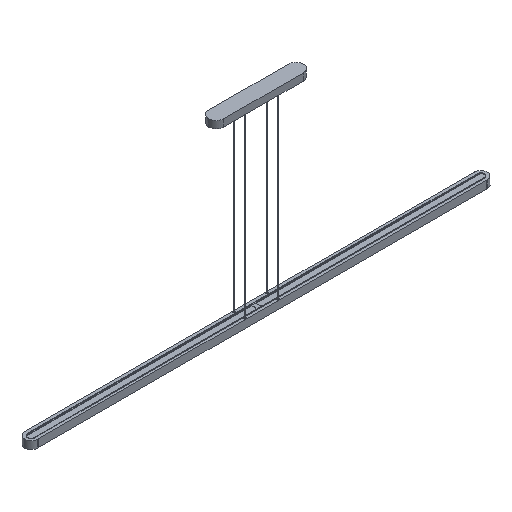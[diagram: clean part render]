
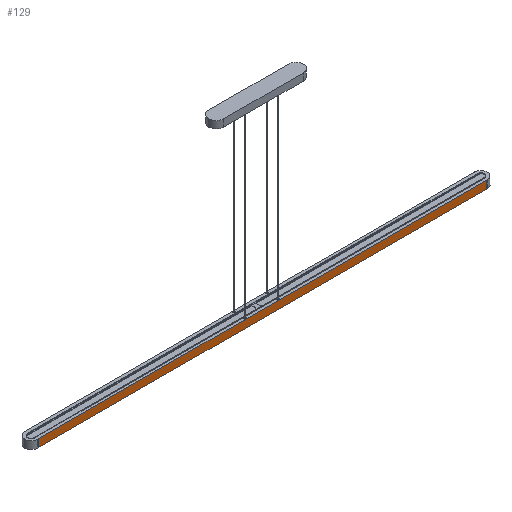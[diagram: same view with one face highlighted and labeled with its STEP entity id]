
A CAD part, isometric view. The second image highlights one B-rep face of the part: STEP entity #129.
In plain terms, the highlighted planar face has unit normal (0, -1, 0).
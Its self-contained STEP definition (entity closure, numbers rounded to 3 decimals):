
#129=ADVANCED_FACE($,(#259),#1665,.T.);
#259=FACE_OUTER_BOUND($,#403,.T.);
#403=EDGE_LOOP($,(#940,#941,#942,#943));
#940=ORIENTED_EDGE($,*,*,#1382,.F.);
#941=ORIENTED_EDGE($,*,*,#1329,.F.);
#942=ORIENTED_EDGE($,*,*,#1365,.T.);
#943=ORIENTED_EDGE($,*,*,#1345,.F.);
#1329=EDGE_CURVE($,#1582,#1583,#1871,.T.);
#1345=EDGE_CURVE($,#1596,#1597,#1887,.T.);
#1365=EDGE_CURVE($,#1582,#1597,#1907,.T.);
#1382=EDGE_CURVE($,#1583,#1596,#1921,.T.);
#1582=VERTEX_POINT($,#4300);
#1583=VERTEX_POINT($,#4301);
#1596=VERTEX_POINT($,#4314);
#1597=VERTEX_POINT($,#4315);
#1665=PLANE($,#2209);
#1871=B_SPLINE_CURVE_WITH_KNOTS($,1,(#4008,#4009),.UNSPECIFIED.,.F.,.F.,
(2,2),(-2317.,0.),.UNSPECIFIED.);
#1887=B_SPLINE_CURVE_WITH_KNOTS($,1,(#4080,#4081),.UNSPECIFIED.,.F.,.F.,
(2,2),(0.,2317.),.UNSPECIFIED.);
#1907=B_SPLINE_CURVE_WITH_KNOTS($,1,(#4160,#4161),.UNSPECIFIED.,.F.,.F.,
(2,2),(-40.,0.),.UNSPECIFIED.);
#1921=B_SPLINE_CURVE_WITH_KNOTS($,1,(#4194,#4195),.UNSPECIFIED.,.F.,.F.,
(2,2),(-40.,0.),.UNSPECIFIED.);
#2209=AXIS2_PLACEMENT_3D($,#4223,#2266,$);
#2266=DIRECTION($,(0.,-1.,0.));
#4008=CARTESIAN_POINT($,(1158.5,-34.,-1000.));
#4009=CARTESIAN_POINT($,(-1158.5,-34.,-1000.));
#4080=CARTESIAN_POINT($,(-1158.5,-34.,-960.));
#4081=CARTESIAN_POINT($,(1158.5,-34.,-960.));
#4160=CARTESIAN_POINT($,(1158.5,-34.,-1000.));
#4161=CARTESIAN_POINT($,(1158.5,-34.,-960.));
#4194=CARTESIAN_POINT($,(-1158.5,-34.,-1000.));
#4195=CARTESIAN_POINT($,(-1158.5,-34.,-960.));
#4223=CARTESIAN_POINT($,(1158.5,-34.,-1000.));
#4300=CARTESIAN_POINT($,(1158.5,-34.,-1000.));
#4301=CARTESIAN_POINT($,(-1158.5,-34.,-1000.));
#4314=CARTESIAN_POINT($,(-1158.5,-34.,-960.));
#4315=CARTESIAN_POINT($,(1158.5,-34.,-960.));
